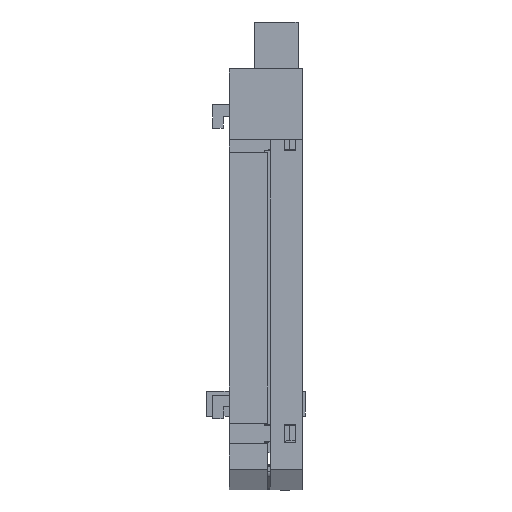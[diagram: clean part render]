
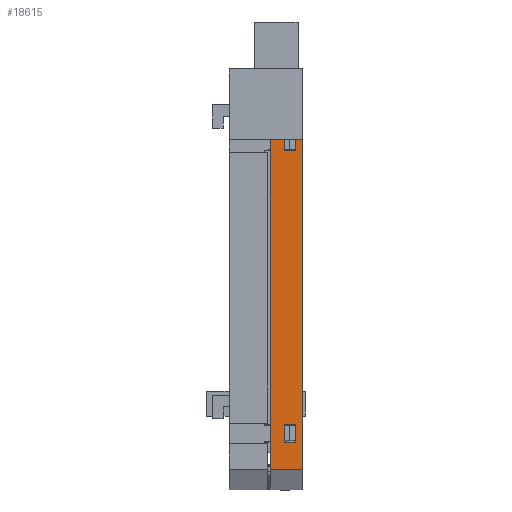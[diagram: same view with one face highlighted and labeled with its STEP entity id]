
A CAD part, front view. The second image highlights one B-rep face of the part: STEP entity #18615.
In plain terms, the highlighted planar face has unit normal (0, -1, 0).
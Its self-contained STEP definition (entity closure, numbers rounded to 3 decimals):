
#585 = DIRECTION ( 'NONE',  ( 0., 0., -1. ) ) ;
#1482 = LINE ( 'NONE', #1679, #21395 ) ;
#1669 = VERTEX_POINT ( 'NONE', #12058 ) ;
#1679 = CARTESIAN_POINT ( 'NONE',  ( 2.4, 0., -60.645 ) ) ;
#1865 = CARTESIAN_POINT ( 'NONE',  ( 2.4, 0., -57.545 ) ) ;
#1914 = DIRECTION ( 'NONE',  ( 0., 0., 1. ) ) ;
#2389 = VERTEX_POINT ( 'NONE', #7277 ) ;
#2788 = DIRECTION ( 'NONE',  ( 0., 0., 1. ) ) ;
#3989 = VERTEX_POINT ( 'NONE', #21624 ) ;
#5123 = CARTESIAN_POINT ( 'NONE',  ( 4.4, 0., -10.945 ) ) ;
#5397 = ORIENTED_EDGE ( 'NONE', *, *, #7633, .T. ) ;
#5443 = VECTOR ( 'NONE', #31322, 1000. ) ;
#5778 = DIRECTION ( 'NONE',  ( 0., 0., -1. ) ) ;
#6157 = LINE ( 'NONE', #8104, #32972 ) ;
#6246 = CARTESIAN_POINT ( 'NONE',  ( 4.4, 0., -10.945 ) ) ;
#7277 = CARTESIAN_POINT ( 'NONE',  ( 0., 0., 0. ) ) ;
#7633 = EDGE_CURVE ( 'NONE', #27051, #22877, #13488, .T. ) ;
#7645 = ORIENTED_EDGE ( 'NONE', *, *, #17633, .T. ) ;
#7840 = EDGE_CURVE ( 'NONE', #15147, #1669, #12275, .T. ) ;
#7988 = CARTESIAN_POINT ( 'NONE',  ( 0., 0., -65.25 ) ) ;
#8104 = CARTESIAN_POINT ( 'NONE',  ( 4.4, 0., -60.645 ) ) ;
#8143 = VECTOR ( 'NONE', #11961, 1000. ) ;
#8299 = EDGE_CURVE ( 'NONE', #21315, #17640, #16725, .T. ) ;
#8537 = ORIENTED_EDGE ( 'NONE', *, *, #30042, .F. ) ;
#8711 = DIRECTION ( 'NONE',  ( 1., 0., 0. ) ) ;
#9562 = CARTESIAN_POINT ( 'NONE',  ( 2.4, 0., -60.645 ) ) ;
#9816 = VECTOR ( 'NONE', #8711, 1000. ) ;
#10204 = CARTESIAN_POINT ( 'NONE',  ( 2.4, 0., -10.945 ) ) ;
#10205 = EDGE_CURVE ( 'NONE', #1669, #21315, #1482, .T. ) ;
#10947 = VECTOR ( 'NONE', #19179, 1000. ) ;
#11678 = VERTEX_POINT ( 'NONE', #27568 ) ;
#11760 = LINE ( 'NONE', #6246, #10947 ) ;
#11787 = CARTESIAN_POINT ( 'NONE',  ( 2.4, 0., -7.845 ) ) ;
#11925 = ORIENTED_EDGE ( 'NONE', *, *, #12638, .F. ) ;
#11961 = DIRECTION ( 'NONE',  ( 0., 0., -1. ) ) ;
#12058 = CARTESIAN_POINT ( 'NONE',  ( 2.4, 0., -60.645 ) ) ;
#12253 = CARTESIAN_POINT ( 'NONE',  ( 5.5, 0., 0. ) ) ;
#12275 = LINE ( 'NONE', #9562, #19193 ) ;
#12355 = ORIENTED_EDGE ( 'NONE', *, *, #22857, .T. ) ;
#12638 = EDGE_CURVE ( 'NONE', #22132, #3989, #28822, .T. ) ;
#12888 = DIRECTION ( 'NONE',  ( -1., 0., 0. ) ) ;
#13215 = CARTESIAN_POINT ( 'NONE',  ( 5.5, 0., 0. ) ) ;
#13400 = CARTESIAN_POINT ( 'NONE',  ( 0., 0., 0. ) ) ;
#13488 = LINE ( 'NONE', #15756, #28071 ) ;
#14246 = VECTOR ( 'NONE', #20970, 1000. ) ;
#14481 = CARTESIAN_POINT ( 'NONE',  ( 2.4, 0., -57.545 ) ) ;
#14887 = PLANE ( 'NONE',  #24307 ) ;
#15147 = VERTEX_POINT ( 'NONE', #24796 ) ;
#15756 = CARTESIAN_POINT ( 'NONE',  ( 2.4, 0., -10.945 ) ) ;
#15772 = CARTESIAN_POINT ( 'NONE',  ( 5.5, 0., -65.25 ) ) ;
#16043 = LINE ( 'NONE', #26064, #5443 ) ;
#16271 = VECTOR ( 'NONE', #5778, 1000. ) ;
#16361 = EDGE_CURVE ( 'NONE', #22877, #11678, #16043, .T. ) ;
#16725 = LINE ( 'NONE', #1865, #9816 ) ;
#17239 = DIRECTION ( 'NONE',  ( 0., 0., 1. ) ) ;
#17259 = EDGE_LOOP ( 'NONE', ( #21270, #8537, #11925, #7645 ) ) ;
#17465 = DIRECTION ( 'NONE',  ( 0., 1., 0. ) ) ;
#17591 = ORIENTED_EDGE ( 'NONE', *, *, #16361, .T. ) ;
#17633 = EDGE_CURVE ( 'NONE', #22132, #2389, #23175, .T. ) ;
#17640 = VERTEX_POINT ( 'NONE', #23304 ) ;
#18102 = ORIENTED_EDGE ( 'NONE', *, *, #8299, .T. ) ;
#18197 = FACE_OUTER_BOUND ( 'NONE', #17259, .T. ) ;
#18615 = ADVANCED_FACE ( 'NONE', ( #19048, #32048, #18197 ), #14887, .F. ) ;
#19048 = FACE_BOUND ( 'NONE', #25971, .T. ) ;
#19179 = DIRECTION ( 'NONE',  ( 0., 0., -1. ) ) ;
#19193 = VECTOR ( 'NONE', #25039, 1000. ) ;
#20372 = ORIENTED_EDGE ( 'NONE', *, *, #7840, .T. ) ;
#20942 = VERTEX_POINT ( 'NONE', #7988 ) ;
#20970 = DIRECTION ( 'NONE',  ( -1., 0., 0. ) ) ;
#21094 = LINE ( 'NONE', #15772, #14246 ) ;
#21270 = ORIENTED_EDGE ( 'NONE', *, *, #30113, .T. ) ;
#21315 = VERTEX_POINT ( 'NONE', #14481 ) ;
#21395 = VECTOR ( 'NONE', #17239, 1000. ) ;
#21624 = CARTESIAN_POINT ( 'NONE',  ( 5.5, 0., -65.25 ) ) ;
#22132 = VERTEX_POINT ( 'NONE', #13215 ) ;
#22857 = EDGE_CURVE ( 'NONE', #11678, #29378, #11760, .T. ) ;
#22877 = VERTEX_POINT ( 'NONE', #11787 ) ;
#23102 = LINE ( 'NONE', #13400, #16271 ) ;
#23175 = LINE ( 'NONE', #33680, #30910 ) ;
#23304 = CARTESIAN_POINT ( 'NONE',  ( 4.4, 0., -57.545 ) ) ;
#23393 = EDGE_CURVE ( 'NONE', #29378, #27051, #26235, .T. ) ;
#24307 = AXIS2_PLACEMENT_3D ( 'NONE', #12253, #17465, #1914 ) ;
#24650 = CARTESIAN_POINT ( 'NONE',  ( 2.4, 0., -10.945 ) ) ;
#24796 = CARTESIAN_POINT ( 'NONE',  ( 4.4, 0., -60.645 ) ) ;
#25039 = DIRECTION ( 'NONE',  ( -1., 0., 0. ) ) ;
#25971 = EDGE_LOOP ( 'NONE', ( #5397, #17591, #12355, #28988 ) ) ;
#26064 = CARTESIAN_POINT ( 'NONE',  ( 2.4, 0., -7.845 ) ) ;
#26235 = LINE ( 'NONE', #24650, #29081 ) ;
#27051 = VERTEX_POINT ( 'NONE', #10204 ) ;
#27568 = CARTESIAN_POINT ( 'NONE',  ( 4.4, 0., -7.845 ) ) ;
#28071 = VECTOR ( 'NONE', #2788, 1000. ) ;
#28822 = LINE ( 'NONE', #32655, #8143 ) ;
#28988 = ORIENTED_EDGE ( 'NONE', *, *, #23393, .T. ) ;
#29071 = ORIENTED_EDGE ( 'NONE', *, *, #29539, .T. ) ;
#29081 = VECTOR ( 'NONE', #32429, 1000. ) ;
#29378 = VERTEX_POINT ( 'NONE', #5123 ) ;
#29539 = EDGE_CURVE ( 'NONE', #17640, #15147, #6157, .T. ) ;
#30042 = EDGE_CURVE ( 'NONE', #3989, #20942, #21094, .T. ) ;
#30113 = EDGE_CURVE ( 'NONE', #2389, #20942, #23102, .T. ) ;
#30910 = VECTOR ( 'NONE', #12888, 1000. ) ;
#31226 = EDGE_LOOP ( 'NONE', ( #20372, #31660, #18102, #29071 ) ) ;
#31322 = DIRECTION ( 'NONE',  ( 1., 0., 0. ) ) ;
#31660 = ORIENTED_EDGE ( 'NONE', *, *, #10205, .T. ) ;
#32048 = FACE_BOUND ( 'NONE', #31226, .T. ) ;
#32429 = DIRECTION ( 'NONE',  ( -1., 0., 0. ) ) ;
#32655 = CARTESIAN_POINT ( 'NONE',  ( 5.5, 0., 0. ) ) ;
#32972 = VECTOR ( 'NONE', #585, 1000. ) ;
#33680 = CARTESIAN_POINT ( 'NONE',  ( 5.5, 0., 0. ) ) ;
